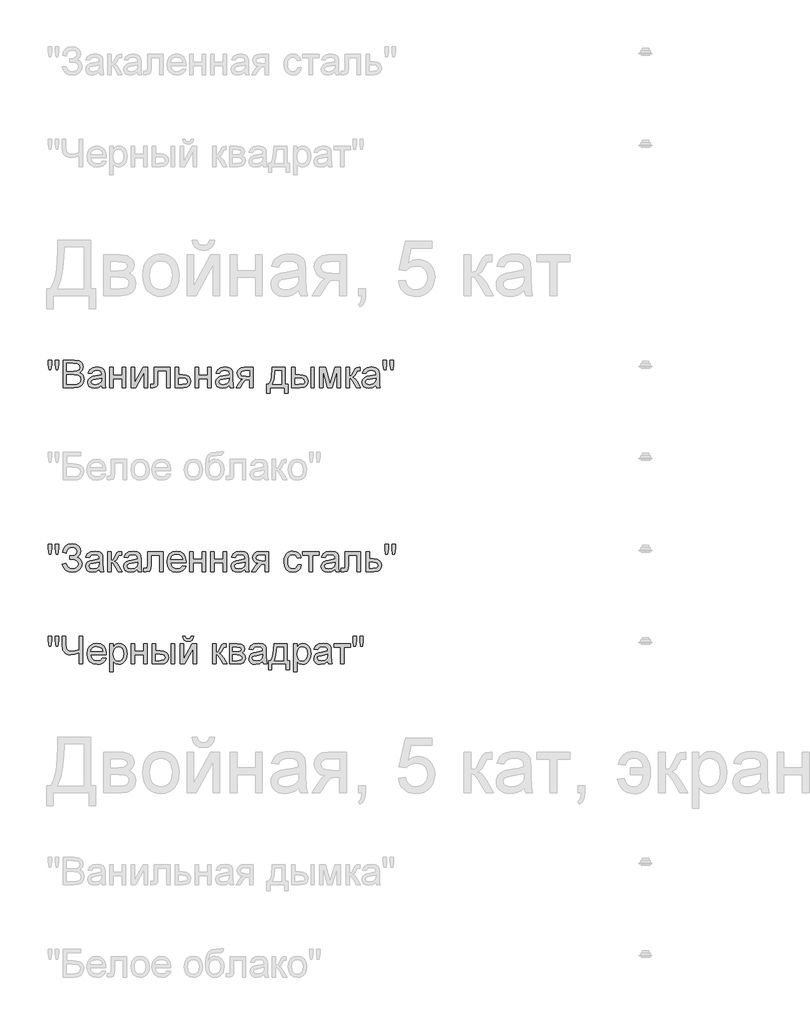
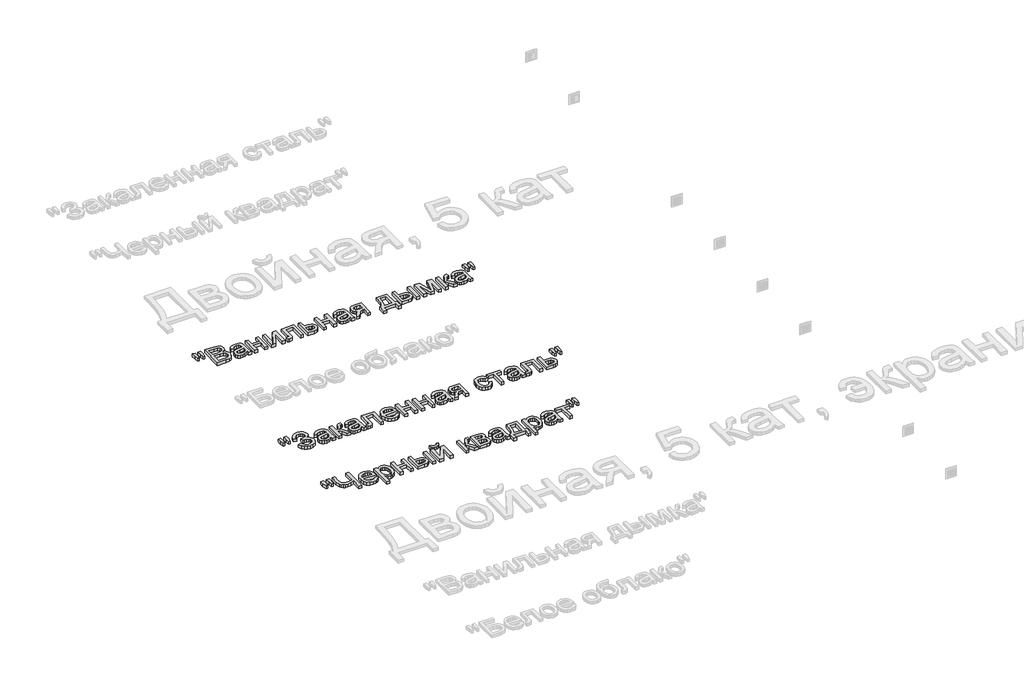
# One storey, part 160 of 168: 3 proxies.
"""IFC4 building model written with IfcOpenShell, lengths in millimetres."""

from ifc_helpers import new_model, si_unit, origin, origin_with_axes, place, context, project, spatial, polyline, outline, extrude, element, save

model = new_model("IFC4")

# Units and contexts
model_context = context("Model", 3, world=origin())
ifc_project = project(units=[si_unit("LENGTHUNIT", "METRE", prefix="MILLI")], contexts=[model_context])

# Site, building, storey
site = spatial("IfcSite", under=ifc_project)
building = spatial("IfcBuilding", under=site)
storey = spatial("IfcBuildingStorey", under=building, Name="Этаж 01", Elevation=0.0)

# Proxies
placement = place(None, origin())
element("IfcBuildingElementProxy", 1, Name="150", ObjectType="150", at=placement, inside=storey, context=model_context, shape_type="SweptSolid", body=[
    extrude(outline(polyline([(77280.1485789, -9151.873446), (77275.550054, -9122.7739802), (77275.550054, -9097.7212163), (77294.3856121, -9097.7212163), (77294.3856121, -9122.7739802), (77290.2653338, -9151.873446), (77280.1485789, -9151.873446)])), origin_with_axes(), (0.0, 0.0, 1.0), 20.0),
    extrude(outline(polyline([(77317.7093306, -9151.873446), (77313.2211703, -9122.7739802), (77313.2211703, -9097.7212163), (77332.0567284, -9097.7212163), (77332.0567284, -9122.7739802), (77327.6421445, -9151.873446), (77317.7093306, -9151.873446)])), origin_with_axes(), (0.0, 0.0, 1.0), 20.0),
    extrude(outline(polyline([(77357.9556209, -9248.4056816), (77357.9556209, -9097.7212163), (77415.4555767, -9097.7212163), (77443.6169435, -9102.1541944), (77453.0807078, -9107.7781904), (77460.2452096, -9115.7842223), (77466.2600803, -9135.0612389), (77461.2017028, -9152.6643923), (77445.9162059, -9166.0001146), (77456.5893823, -9171.5735269), (77464.4758526, -9180.0532069), (77469.3456905, -9190.8781346), (77470.9689698, -9203.48729), (77466.5359918, -9223.7391938), (77455.5547142, -9238.160168), (77439.1655713, -9245.8121135), (77415.0141183, -9248.4056816), (77357.9556209, -9248.4056816)]), holes=[polyline([(77376.791179, -9158.9367803), (77411.1881456, -9158.9367803), (77431.2745025, -9157.3180996), (77443.3594261, -9150.3467358), (77447.4245221, -9138.0778712), (77443.6353376, -9125.7906126), (77432.7828187, -9118.5249432), (77408.5761834, -9116.5567745), (77376.791179, -9116.5567745), (77376.791179, -9158.9367803)]), polyline([(77376.791179, -9229.5701234), (77415.4187885, -9229.5701234), (77429.3983043, -9228.8343594), (77441.2257105, -9224.7324752), (77449.061597, -9216.3631598), (77452.1334117, -9203.671231), (77448.5281681, -9189.0295275), (77436.8479148, -9180.2923302), (77413.5793786, -9177.7723385), (77376.791179, -9177.7723385), (77376.791179, -9229.5701234)])]), origin_with_axes(), (0.0, 0.0, 1.0), 20.0),
    extrude(outline(polyline([(77565.1467606, -9234.279013), (77546.8814195, -9247.0445182), (77526.7030921, -9250.7601263), (77510.9623412, -9248.5252432), (77499.3510657, -9241.8205939), (77492.1911624, -9231.6394596), (77489.804528, -9218.975122), (77493.4097715, -9204.0759012), (77502.8827329, -9193.2601705), (77516.0713024, -9187.079753), (77532.3684748, -9184.2470616), (77565.036396, -9177.7723385), (77565.1467606, -9173.5784838), (77563.8499765, -9165.1723802), (77559.9596244, -9159.6725443), (77551.2592153, -9155.5890542), (77539.1375035, -9154.2278908), (77520.0812162, -9157.8515285), (77510.9945309, -9170.7090042), (77492.1589727, -9168.3545594), (77500.3075589, -9149.9604597), (77516.7150959, -9139.1815172), (77541.5655247, -9135.3923327), (77564.3926025, -9138.7400588), (77577.2868664, -9147.1461624), (77583.0626137, -9159.9300617), (77583.9823187, -9176.4111751), (77583.9823187, -9199.8452582), (77584.9388119, -9232.5683617), (77588.6912083, -9248.4056816), (77569.8556501, -9248.4056816), (77565.1467606, -9234.279013)]), holes=[polyline([(77565.1467606, -9196.6078966), (77534.7597078, -9202.383644), (77518.5545059, -9205.4370645), (77511.2152601, -9210.4034715), (77508.6400861, -9217.6507468), (77514.2502865, -9227.841078), (77530.7130058, -9231.9245682), (77549.7692932, -9227.4180137), (77562.0565518, -9216.5103126), (77565.036396, -9201.9421856), (77565.1467606, -9196.6078966)])]), origin_with_axes(), (0.0, 0.0, 1.0), 20.0),
    extrude(outline(polyline([(77609.8812112, -9137.7467774), (77628.7167693, -9137.7467774), (77628.7167693, -9180.1267833), (77678.1601095, -9180.1267833), (77678.1601095, -9137.7467774), (77696.9956676, -9137.7467774), (77696.9956676, -9248.4056816), (77678.1601095, -9248.4056816), (77678.1601095, -9198.9623414), (77628.7167693, -9198.9623414), (77628.7167693, -9248.4056816), (77609.8812112, -9248.4056816), (77609.8812112, -9137.7467774)])), origin_with_axes(), (0.0, 0.0, 1.0), 20.0),
    extrude(outline(polyline([(77725.2490049, -9137.7467774), (77744.084563, -9137.7467774), (77744.084563, -9222.1389071), (77790.364118, -9137.7467774), (77814.7179061, -9137.7467774), (77814.7179061, -9248.4056816), (77795.8823479, -9248.4056816), (77795.8823479, -9164.5285867), (77749.8970985, -9248.4056816), (77725.2490049, -9248.4056816), (77725.2490049, -9137.7467774)])), origin_with_axes(), (0.0, 0.0, 1.0), 20.0),
    extrude(outline(polyline([(77852.3890224, -9137.7467774), (77937.1490341, -9137.7467774), (77937.1490341, -9248.295317), (77918.3134759, -9248.295317), (77918.3134759, -9156.5823356), (77871.2245806, -9156.5823356), (77871.2245806, -9209.3734019), (77869.9553877, -9233.72719), (77862.9840239, -9244.0094917), (77846.5029105, -9248.4056816), (77831.1990195, -9247.4491884), (77831.1990195, -9229.5701234), (77839.6235172, -9229.5701234), (77848.1399854, -9228.4112951), (77851.5428938, -9224.7324752), (77852.3890224, -9208.3065441), (77852.3890224, -9137.7467774)])), origin_with_axes(), (0.0, 0.0, 1.0), 20.0),
    extrude(outline(polyline([(77965.4023713, -9137.7467774), (77984.2379295, -9137.7467774), (77984.2379295, -9177.7723385), (78005.9429672, -9177.7723385), (78024.7601312, -9180.1313818), (78038.6844648, -9187.2085117), (78047.2929034, -9198.433511), (78050.162383, -9213.2361628), (78047.7205663, -9226.7144394), (78040.395116, -9238.0865916), (78027.6985887, -9245.8259091), (78009.1435405, -9248.4056816), (77965.4023713, -9248.4056816), (77965.4023713, -9137.7467774)]), holes=[polyline([(77984.2379295, -9229.5701234), (78001.8226888, -9229.5701234), (78024.539402, -9225.615392), (78029.6299692, -9220.552416), (78031.3268249, -9213.272951), (78026.3052356, -9201.6846682), (78018.2348244, -9197.8770895), (78004.066769, -9196.6078966), (77984.2379295, -9196.6078966), (77984.2379295, -9229.5701234)])]), origin_with_axes(), (0.0, 0.0, 1.0), 20.0),
    extrude(outline(polyline([(78073.7068307, -9137.7467774), (78092.5423889, -9137.7467774), (78092.5423889, -9180.1267833), (78141.985729, -9180.1267833), (78141.985729, -9137.7467774), (78160.8212872, -9137.7467774), (78160.8212872, -9248.4056816), (78141.985729, -9248.4056816), (78141.985729, -9198.9623414), (78092.5423889, -9198.9623414), (78092.5423889, -9248.4056816), (78073.7068307, -9248.4056816), (78073.7068307, -9137.7467774)])), origin_with_axes(), (0.0, 0.0, 1.0), 20.0),
    extrude(outline(polyline([(78259.7079675, -9234.279013), (78241.4426264, -9247.0445182), (78221.264299, -9250.7601263), (78205.5235481, -9248.5252432), (78193.9122726, -9241.8205939), (78186.7523693, -9231.6394596), (78184.3657349, -9218.975122), (78187.9709784, -9204.0759012), (78197.4439398, -9193.2601705), (78210.6325093, -9187.079753), (78226.9296817, -9184.2470616), (78259.5976029, -9177.7723385), (78259.7079675, -9173.5784838), (78258.4111834, -9165.1723802), (78254.5208313, -9159.6725443), (78245.8204221, -9155.5890542), (78233.6987104, -9154.2278908), (78214.6424231, -9157.8515285), (78205.5557378, -9170.7090042), (78186.7201796, -9168.3545594), (78194.8687658, -9149.9604597), (78211.2763028, -9139.1815172), (78236.1267316, -9135.3923327), (78258.9538094, -9138.7400588), (78271.8480733, -9147.1461624), (78277.6238206, -9159.9300617), (78278.5435256, -9176.4111751), (78278.5435256, -9199.8452582), (78279.5000188, -9232.5683617), (78283.2524152, -9248.4056816), (78264.416857, -9248.4056816), (78259.7079675, -9234.279013)]), holes=[polyline([(78259.7079675, -9196.6078966), (78229.3209147, -9202.383644), (78213.1157128, -9205.4370645), (78205.776467, -9210.4034715), (78203.201293, -9217.6507468), (78208.8114934, -9227.841078), (78225.2742127, -9231.9245682), (78244.3305001, -9227.4180137), (78256.6177587, -9216.5103126), (78259.5976029, -9201.9421856), (78259.7079675, -9196.6078966)])]), origin_with_axes(), (0.0, 0.0, 1.0), 20.0),
    extrude(outline(polyline([(78389.2024298, -9137.7467774), (78389.2024298, -9248.4056816), (78370.3668716, -9248.4056816), (78370.3668716, -9206.0256757), (78360.1029639, -9206.0256757), (78346.1234481, -9208.4169087), (78332.9900609, -9224.4933519), (78317.9804755, -9248.4056816), (78296.2018614, -9248.4056816), (78315.1109959, -9218.1657816), (78323.4619172, -9207.3132627), (78331.1506509, -9202.4940086), (78318.2747811, -9198.5484742), (78309.224884, -9191.0528785), (78303.872201, -9181.0832765), (78302.0879733, -9169.7157228), (78304.5251915, -9156.8214589), (78311.8368462, -9146.6127335), (78323.7654199, -9139.9632664), (78340.0533952, -9137.7467774), (78389.2024298, -9137.7467774)]), holes=[polyline([(78370.3668716, -9156.5823356), (78345.5348369, -9156.5823356), (78332.7095509, -9157.672186), (78325.4300859, -9160.9417372), (78320.9235315, -9171.1504626), (78322.583599, -9178.32876), (78327.5638015, -9183.3089625), (78351.0898551, -9187.1901176), (78370.3668716, -9187.1901176), (78370.3668716, -9156.5823356)])]), origin_with_axes(), (0.0, 0.0, 1.0), 20.0),
    extrude(outline(polyline([(78492.7979996, -9137.7467774), (78563.4313427, -9137.7467774), (78563.4313427, -9229.5701234), (78577.5580113, -9229.5701234), (78577.5580113, -9279.0134636), (78558.7224531, -9279.0134636), (78558.7224531, -9248.4056816), (78481.0257758, -9248.4056816), (78481.0257758, -9279.0134636), (78462.1902176, -9279.0134636), (78462.1902176, -9229.5701234), (78473.9624415, -9229.5701234), (78482.5202964, -9214.105284), (78488.5121744, -9193.6464466), (78492.7979996, -9137.7467774)]), holes=[polyline([(78509.279113, -9156.5823356), (78504.864529, -9199.4957703), (78495.1524444, -9229.5701234), (78544.5957845, -9229.5701234), (78544.5957845, -9156.5823356), (78509.279113, -9156.5823356)])]), origin_with_axes(), (0.0, 0.0, 1.0), 20.0),
    extrude(outline(polyline([(78702.3435841, -9137.7467774), (78721.1791422, -9137.7467774), (78721.1791422, -9248.4056816), (78702.3435841, -9248.4056816), (78702.3435841, -9137.7467774)])), origin_with_axes(), (0.0, 0.0, 1.0), 20.0),
    extrude(outline(polyline([(78598.7480142, -9137.7467774), (78617.5835724, -9137.7467774), (78617.5835724, -9177.7723385), (78640.8705027, -9177.7723385), (78660.9982463, -9180.1313818), (78675.9112627, -9187.2085117), (78685.1405023, -9198.433511), (78688.2169154, -9213.2361628), (78685.637143, -9226.7144394), (78677.8978255, -9238.0865916), (78664.4931253, -9245.8259091), (78644.9172046, -9248.4056816), (78598.7480142, -9248.4056816), (78598.7480142, -9137.7467774)]), holes=[polyline([(78617.5835724, -9229.5701234), (78636.9341653, -9229.5701234), (78661.9133528, -9225.615392), (78667.5143562, -9220.552416), (78669.3813573, -9213.272951), (78663.8447333, -9201.6846682), (78654.9649816, -9197.8770895), (78639.3989747, -9196.6078966), (78617.5835724, -9196.6078966), (78617.5835724, -9229.5701234)])]), origin_with_axes(), (0.0, 0.0, 1.0), 20.0),
    extrude(outline(polyline([(78749.4324794, -9137.7467774), (78781.8428832, -9137.7467774), (78806.8220707, -9226.3327619), (78833.7510327, -9137.7467774), (78864.8002731, -9137.7467774), (78864.8002731, -9248.4056816), (78845.964715, -9248.4056816), (78845.964715, -9159.3046623), (78818.8886001, -9248.4056816), (78794.1669301, -9248.4056816), (78768.2680376, -9155.0372312), (78768.2680376, -9248.4056816), (78749.4324794, -9248.4056816), (78749.4324794, -9137.7467774)])), origin_with_axes(), (0.0, 0.0, 1.0), 20.0),
    extrude(outline(polyline([(78893.0536104, -9137.7467774), (78911.8891685, -9137.7467774), (78911.8891685, -9184.8356728), (78924.5075209, -9181.4511584), (78934.845005, -9161.7326835), (78943.4350496, -9144.7181412), (78951.0134187, -9139.1815172), (78964.7905994, -9137.7467774), (78968.395843, -9137.7467774), (78968.395843, -9156.6927002), (78963.3190714, -9156.5823356), (78954.1220216, -9158.5688983), (78947.6472984, -9170.9665216), (78940.0505352, -9184.3758203), (78929.4003515, -9190.9425139), (78941.2829399, -9198.2725627), (78952.9447992, -9213.7144094), (78973.1047325, -9248.4056816), (78951.6940004, -9248.4056816), (78931.9387373, -9214.4501734), (78922.0059234, -9200.0843815), (78911.8891685, -9196.6078966), (78911.8891685, -9248.4056816), (78893.0536104, -9248.4056816), (78893.0536104, -9137.7467774)])), origin_with_axes(), (0.0, 0.0, 1.0), 20.0),
    extrude(outline(polyline([(79055.5102994, -9234.279013), (79037.2449584, -9247.0445182), (79017.0666309, -9250.7601263), (79001.3258801, -9248.5252432), (78989.7146046, -9241.8205939), (78982.5547013, -9231.6394596), (78980.1680668, -9218.975122), (78983.7733104, -9204.0759012), (78993.2462717, -9193.2601705), (79006.4348413, -9187.079753), (79022.7320137, -9184.2470616), (79055.3999348, -9177.7723385), (79055.5102994, -9173.5784838), (79054.2135154, -9165.1723802), (79050.3231633, -9159.6725443), (79041.6227541, -9155.5890542), (79029.5010424, -9154.2278908), (79010.444755, -9157.8515285), (79001.3580697, -9170.7090042), (78982.5225116, -9168.3545594), (78990.6710978, -9149.9604597), (79007.0786348, -9139.1815172), (79031.9290635, -9135.3923327), (79054.7561413, -9138.7400588), (79067.6504053, -9147.1461624), (79073.4261526, -9159.9300617), (79074.3458576, -9176.4111751), (79074.3458576, -9199.8452582), (79075.3023508, -9232.5683617), (79079.0547471, -9248.4056816), (79060.219189, -9248.4056816), (79055.5102994, -9234.279013)]), holes=[polyline([(79055.5102994, -9196.6078966), (79025.1232466, -9202.383644), (79008.9180447, -9205.4370645), (79001.5787989, -9210.4034715), (78999.003625, -9217.6507468), (79004.6138254, -9227.841078), (79021.0765447, -9231.9245682), (79040.132832, -9227.4180137), (79052.4200907, -9216.5103126), (79055.3999348, -9201.9421856), (79055.5102994, -9196.6078966)])]), origin_with_axes(), (0.0, 0.0, 1.0), 20.0),
    extrude(outline(polyline([(79100.1343854, -9151.873446), (79095.5358605, -9122.7739802), (79095.5358605, -9097.7212163), (79114.3714187, -9097.7212163), (79114.3714187, -9122.7739802), (79110.2511403, -9151.873446), (79100.1343854, -9151.873446)])), origin_with_axes(), (0.0, 0.0, 1.0), 20.0),
    extrude(outline(polyline([(79137.6951372, -9151.873446), (79133.2069768, -9122.7739802), (79133.2069768, -9097.7212163), (79152.042535, -9097.7212163), (79152.042535, -9122.7739802), (79147.627951, -9151.873446), (79137.6951372, -9151.873446)])), origin_with_axes(), (0.0, 0.0, 1.0), 20.0),
])
element("IfcBuildingElementProxy", 2, Name="150", ObjectType="150", at=placement, inside=storey, context=model_context, shape_type="SweptSolid", body=[
    extrude(outline(polyline([(77280.1485789, -10151.873446), (77275.550054, -10122.7739802), (77275.550054, -10097.7212163), (77294.3856121, -10097.7212163), (77294.3856121, -10122.7739802), (77290.2653338, -10151.873446), (77280.1485789, -10151.873446)])), origin_with_axes(), (0.0, 0.0, 1.0), 20.0),
    extrude(outline(polyline([(77317.7093306, -10151.873446), (77313.2211703, -10122.7739802), (77313.2211703, -10097.7212163), (77332.0567284, -10097.7212163), (77332.0567284, -10122.7739802), (77327.6421445, -10151.873446), (77317.7093306, -10151.873446)])), origin_with_axes(), (0.0, 0.0, 1.0), 20.0),
    extrude(outline(polyline([(77350.8922866, -10206.0256757), (77369.7278447, -10201.3167862), (77381.2977335, -10221.7158428), (77392.2284273, -10229.3723868), (77406.2217387, -10231.9245682), (77420.398991, -10230.0069833), (77431.2193202, -10224.2542286), (77438.0757209, -10215.7883442), (77440.3611878, -10205.7313701), (77437.8641888, -10195.1961495), (77430.3731916, -10187.0613589), (77418.5779752, -10181.8604272), (77403.1683181, -10180.1267833), (77393.2722924, -10180.1267833), (77393.2722924, -10161.2912251), (77414.591054, -10159.7645148), (77427.6324708, -10151.9654165), (77433.2978535, -10137.7099892), (77431.4124583, -10128.8394346), (77425.7562726, -10121.2104817), (77416.8811195, -10115.9543677), (77405.3388219, -10114.2023297), (77386.1169876, -10119.591801), (77375.117316, -10133.8840165), (77372.0822895, -10147.1645565), (77353.2467313, -10142.455667), (77359.0983543, -10121.8542752), (77369.7002536, -10107.1389954), (77385.0524291, -10098.3098275), (77405.1548809, -10095.3667716), (77424.5468605, -10098.4247907), (77439.4598769, -10107.5988479), (77448.965028, -10120.8655924), (77452.1334117, -10136.201673), (77447.2037929, -10154.8440931), (77432.4149367, -10168.7592296), (77442.8903765, -10173.5830823), (77451.5080123, -10181.7270699), (77457.2745625, -10192.4922168), (77459.196746, -10205.1795471), (77455.508729, -10223.0172254), (77444.444678, -10237.6819214), (77427.2921799, -10247.4905751), (77405.3388219, -10250.7601263), (77386.2365493, -10247.9642232), (77370.7947025, -10239.5765137), (77359.0132816, -10225.5969979), (77350.8922866, -10206.0256757)])), origin_with_axes(), (0.0, 0.0, 1.0), 20.0),
    extrude(outline(polyline([(77553.3745367, -10234.279013), (77535.1091957, -10247.0445182), (77514.9308682, -10250.7601263), (77499.1901174, -10248.5252432), (77487.5788419, -10241.8205939), (77480.4189386, -10231.6394596), (77478.0323041, -10218.975122), (77481.6375477, -10204.0759012), (77491.110509, -10193.2601705), (77504.2990786, -10187.079753), (77520.596251, -10184.2470616), (77553.2641721, -10177.7723385), (77553.3745367, -10173.5784838), (77552.0777527, -10165.1723802), (77548.1874006, -10159.6725443), (77539.4869914, -10155.5890542), (77527.3652797, -10154.2278908), (77508.3089923, -10157.8515285), (77499.222307, -10170.7090042), (77480.3867489, -10168.3545594), (77488.5353351, -10149.9604597), (77504.9428721, -10139.1815172), (77529.7933008, -10135.3923327), (77552.6203786, -10138.7400588), (77565.5146426, -10147.1461624), (77571.2903899, -10159.9300617), (77572.2100949, -10176.4111751), (77572.2100949, -10199.8452582), (77573.1665881, -10232.5683617), (77576.9189844, -10248.4056816), (77558.0834263, -10248.4056816), (77553.3745367, -10234.279013)]), holes=[polyline([(77553.3745367, -10196.6078966), (77522.9874839, -10202.383644), (77506.782282, -10205.4370645), (77499.4430362, -10210.4034715), (77496.8678623, -10217.6507468), (77502.4780627, -10227.841078), (77518.940782, -10231.9245682), (77537.9970693, -10227.4180137), (77550.284328, -10216.5103126), (77553.2641721, -10201.9421856), (77553.3745367, -10196.6078966)])]), origin_with_axes(), (0.0, 0.0, 1.0), 20.0),
    extrude(outline(polyline([(77598.1089873, -10137.7467774), (77616.9445455, -10137.7467774), (77616.9445455, -10184.8356728), (77629.5628979, -10181.4511584), (77639.900382, -10161.7326835), (77648.4904266, -10144.7181412), (77656.0687957, -10139.1815172), (77669.8459764, -10137.7467774), (77673.4512199, -10137.7467774), (77673.4512199, -10156.6927002), (77668.3744484, -10156.5823356), (77659.1773985, -10158.5688983), (77652.7026754, -10170.9665216), (77645.1059122, -10184.3758203), (77634.4557285, -10190.9425139), (77646.3383169, -10198.2725627), (77658.0001762, -10213.7144094), (77678.1601095, -10248.4056816), (77656.7493774, -10248.4056816), (77636.9941142, -10214.4501734), (77627.0613004, -10200.0843815), (77616.9445455, -10196.6078966), (77616.9445455, -10248.4056816), (77598.1089873, -10248.4056816), (77598.1089873, -10137.7467774)])), origin_with_axes(), (0.0, 0.0, 1.0), 20.0),
    extrude(outline(polyline([(77760.5656764, -10234.279013), (77742.3003353, -10247.0445182), (77722.1220079, -10250.7601263), (77706.381257, -10248.5252432), (77694.7699816, -10241.8205939), (77687.6100782, -10231.6394596), (77685.2234438, -10218.975122), (77688.8286873, -10204.0759012), (77698.3016487, -10193.2601705), (77711.4902183, -10187.079753), (77727.7873906, -10184.2470616), (77760.4553118, -10177.7723385), (77760.5656764, -10173.5784838), (77759.2688924, -10165.1723802), (77755.3785403, -10159.6725443), (77746.6781311, -10155.5890542), (77734.5564193, -10154.2278908), (77715.500132, -10157.8515285), (77706.4134467, -10170.7090042), (77687.5778886, -10168.3545594), (77695.7264748, -10149.9604597), (77712.1340117, -10139.1815172), (77736.9844405, -10135.3923327), (77759.8115183, -10138.7400588), (77772.7057822, -10147.1461624), (77778.4815296, -10159.9300617), (77779.4012346, -10176.4111751), (77779.4012346, -10199.8452582), (77780.3577277, -10232.5683617), (77784.1101241, -10248.4056816), (77765.2745659, -10248.4056816), (77760.5656764, -10234.279013)]), holes=[polyline([(77760.5656764, -10196.6078966), (77730.1786236, -10202.383644), (77713.9734217, -10205.4370645), (77706.6341759, -10210.4034715), (77704.0590019, -10217.6507468), (77709.6692024, -10227.841078), (77726.1319217, -10231.9245682), (77745.188209, -10227.4180137), (77757.4754676, -10216.5103126), (77760.4553118, -10201.9421856), (77760.5656764, -10196.6078966)])]), origin_with_axes(), (0.0, 0.0, 1.0), 20.0),
    extrude(outline(polyline([(77814.7179061, -10137.7467774), (77899.4779178, -10137.7467774), (77899.4779178, -10248.295317), (77880.6423596, -10248.295317), (77880.6423596, -10156.5823356), (77833.5534643, -10156.5823356), (77833.5534643, -10209.3734019), (77832.2842714, -10233.72719), (77825.3129076, -10244.0094917), (77808.8317942, -10248.4056816), (77793.5279032, -10247.4491884), (77793.5279032, -10229.5701234), (77801.9524009, -10229.5701234), (77810.4688691, -10228.4112951), (77813.8717775, -10224.7324752), (77814.7179061, -10208.3065441), (77814.7179061, -10137.7467774)])), origin_with_axes(), (0.0, 0.0, 1.0), 20.0),
    extrude(outline(polyline([(78005.2072032, -10215.4434548), (78023.6748794, -10217.7978996), (78017.0208138, -10231.713036), (78006.4028197, -10242.1148995), (77992.0600204, -10248.5988196), (77974.2315392, -10250.7601263), (77952.1310283, -10247.0307226), (77935.1256831, -10235.8425114), (77924.2823613, -10217.9220597), (77920.6679207, -10193.9959345), (77924.3191495, -10169.2650674), (77935.2728359, -10150.7698), (77952.0482549, -10139.2366995), (77973.1646814, -10135.3923327), (77993.6235189, -10139.2275025), (78009.971275, -10150.7330118), (78020.6904367, -10169.191491), (78024.2634906, -10193.8855699), (78024.153126, -10198.9623414), (77939.5034789, -10198.9623414), (77942.763833, -10213.0614189), (77950.3376036, -10223.4264941), (77961.2682974, -10229.8000497), (77974.5994212, -10231.9245682), (77993.0670974, -10227.9882308), (78005.2072032, -10215.4434548)]), holes=[polyline([(77939.5034789, -10180.1267833), (78005.4279324, -10180.1267833), (78002.8803496, -10170.1755753), (77997.8863515, -10163.0570587), (77986.9050739, -10156.4351828), (77973.091105, -10154.2278908), (77960.3945777, -10155.9891259), (77949.8961452, -10161.272831), (77942.5982861, -10169.5087892), (77939.5034789, -10180.1267833)])]), origin_with_axes(), (0.0, 0.0, 1.0), 20.0),
    extrude(outline(polyline([(78043.0990487, -10137.7467774), (78061.9346069, -10137.7467774), (78061.9346069, -10180.1267833), (78111.377947, -10180.1267833), (78111.377947, -10137.7467774), (78130.2135052, -10137.7467774), (78130.2135052, -10248.4056816), (78111.377947, -10248.4056816), (78111.377947, -10198.9623414), (78061.9346069, -10198.9623414), (78061.9346069, -10248.4056816), (78043.0990487, -10248.4056816), (78043.0990487, -10137.7467774)])), origin_with_axes(), (0.0, 0.0, 1.0), 20.0),
    extrude(outline(polyline([(78158.4668424, -10137.7467774), (78177.3024005, -10137.7467774), (78177.3024005, -10180.1267833), (78226.7457407, -10180.1267833), (78226.7457407, -10137.7467774), (78245.5812988, -10137.7467774), (78245.5812988, -10248.4056816), (78226.7457407, -10248.4056816), (78226.7457407, -10198.9623414), (78177.3024005, -10198.9623414), (78177.3024005, -10248.4056816), (78158.4668424, -10248.4056816), (78158.4668424, -10137.7467774)])), origin_with_axes(), (0.0, 0.0, 1.0), 20.0),
    extrude(outline(polyline([(78344.4679792, -10234.279013), (78326.2026381, -10247.0445182), (78306.0243107, -10250.7601263), (78290.2835598, -10248.5252432), (78278.6722843, -10241.8205939), (78271.512381, -10231.6394596), (78269.1257465, -10218.975122), (78272.7309901, -10204.0759012), (78282.2039515, -10193.2601705), (78295.392521, -10187.079753), (78311.6896934, -10184.2470616), (78344.3576146, -10177.7723385), (78344.4679792, -10173.5784838), (78343.1711951, -10165.1723802), (78339.280843, -10159.6725443), (78330.5804338, -10155.5890542), (78318.4587221, -10154.2278908), (78299.4024347, -10157.8515285), (78290.3157495, -10170.7090042), (78271.4801913, -10168.3545594), (78279.6287775, -10149.9604597), (78296.0363145, -10139.1815172), (78320.8867433, -10135.3923327), (78343.7138211, -10138.7400588), (78356.608085, -10147.1461624), (78362.3838323, -10159.9300617), (78363.3035373, -10176.4111751), (78363.3035373, -10199.8452582), (78364.2600305, -10232.5683617), (78368.0124268, -10248.4056816), (78349.1768687, -10248.4056816), (78344.4679792, -10234.279013)]), holes=[polyline([(78344.4679792, -10196.6078966), (78314.0809264, -10202.383644), (78297.8757245, -10205.4370645), (78290.5364787, -10210.4034715), (78287.9613047, -10217.6507468), (78293.5715051, -10227.841078), (78310.0342244, -10231.9245682), (78329.0905118, -10227.4180137), (78341.3777704, -10216.5103126), (78344.3576146, -10201.9421856), (78344.4679792, -10196.6078966)])]), origin_with_axes(), (0.0, 0.0, 1.0), 20.0),
    extrude(outline(polyline([(78473.9624415, -10137.7467774), (78473.9624415, -10248.4056816), (78455.1268833, -10248.4056816), (78455.1268833, -10206.0256757), (78444.8629756, -10206.0256757), (78430.8834598, -10208.4169087), (78417.7500726, -10224.4933519), (78402.7404872, -10248.4056816), (78380.9618731, -10248.4056816), (78399.8710076, -10218.1657816), (78408.2219289, -10207.3132627), (78415.9106626, -10202.4940086), (78403.0347928, -10198.5484742), (78393.9848957, -10191.0528785), (78388.6322127, -10181.0832765), (78386.847985, -10169.7157228), (78389.2852032, -10156.8214589), (78396.5968579, -10146.6127335), (78408.5254316, -10139.9632664), (78424.8134069, -10137.7467774), (78473.9624415, -10137.7467774)]), holes=[polyline([(78455.1268833, -10156.5823356), (78430.2948486, -10156.5823356), (78417.4695626, -10157.672186), (78410.1900976, -10160.9417372), (78405.6835431, -10171.1504626), (78407.3436107, -10178.32876), (78412.3238132, -10183.3089625), (78435.8498668, -10187.1901176), (78455.1268833, -10187.1901176), (78455.1268833, -10156.5823356)])]), origin_with_axes(), (0.0, 0.0, 1.0), 20.0),
    extrude(outline(polyline([(78631.710241, -10208.3801205), (78650.5457991, -10210.7345653), (78645.2942837, -10227.4869916), (78635.4258491, -10240.1467308), (78621.8693976, -10248.1067774), (78605.5538311, -10250.7601263), (78585.518058, -10247.0583138), (78569.8508835, -10235.952876), (78559.7387272, -10217.9312568), (78556.3680084, -10193.4808997), (78557.8073467, -10176.7192763), (78562.1253616, -10162.192536), (78569.391031, -10150.4616989), (78579.6733328, -10142.087785), (78591.974387, -10137.0661957), (78605.2963137, -10135.3923327), (78621.2118085, -10137.6915951), (78633.9359271, -10144.5893825), (78643.0639991, -10155.7178129), (78648.1913544, -10170.7090042), (78629.3557962, -10173.063449), (78620.6185988, -10158.9551744), (78605.4434665, -10154.2278908), (78593.271171, -10156.5547444), (78583.6096701, -10163.5353053), (78577.3050924, -10175.5466524), (78575.2035665, -10192.9658649), (78577.2591072, -10210.6196021), (78583.4257291, -10222.672336), (78592.9124861, -10229.6115101), (78604.9284317, -10231.9245682), (78614.6819031, -10230.4806314), (78622.678738, -10226.1488209), (78628.4958721, -10218.8187721), (78631.710241, -10208.3801205)])), origin_with_axes(), (0.0, 0.0, 1.0), 20.0),
    extrude(outline(polyline([(78657.6091334, -10137.7467774), (78747.0780347, -10137.7467774), (78747.0780347, -10156.5823356), (78711.7613631, -10156.5823356), (78711.7613631, -10248.4056816), (78692.925805, -10248.4056816), (78692.925805, -10156.5823356), (78657.6091334, -10156.5823356), (78657.6091334, -10137.7467774)])), origin_with_axes(), (0.0, 0.0, 1.0), 20.0),
    extrude(outline(polyline([(78834.1924911, -10234.279013), (78815.9271501, -10247.0445182), (78795.7488226, -10250.7601263), (78780.0080718, -10248.5252432), (78768.3967963, -10241.8205939), (78761.236893, -10231.6394596), (78758.8502585, -10218.975122), (78762.4555021, -10204.0759012), (78771.9284634, -10193.2601705), (78785.117033, -10187.079753), (78801.4142054, -10184.2470616), (78834.0821265, -10177.7723385), (78834.1924911, -10173.5784838), (78832.8957071, -10165.1723802), (78829.005355, -10159.6725443), (78820.3049458, -10155.5890542), (78808.1832341, -10154.2278908), (78789.1269467, -10157.8515285), (78780.0402614, -10170.7090042), (78761.2047033, -10168.3545594), (78769.3532895, -10149.9604597), (78785.7608265, -10139.1815172), (78810.6112552, -10135.3923327), (78833.438333, -10138.7400588), (78846.332597, -10147.1461624), (78852.1083443, -10159.9300617), (78853.0280493, -10176.4111751), (78853.0280493, -10199.8452582), (78853.9845425, -10232.5683617), (78857.7369388, -10248.4056816), (78838.9013807, -10248.4056816), (78834.1924911, -10234.279013)]), holes=[polyline([(78834.1924911, -10196.6078966), (78803.8054383, -10202.383644), (78787.6002364, -10205.4370645), (78780.2609906, -10210.4034715), (78777.6858167, -10217.6507468), (78783.2960171, -10227.841078), (78799.7587364, -10231.9245682), (78818.8150237, -10227.4180137), (78831.1022824, -10216.5103126), (78834.0821265, -10201.9421856), (78834.1924911, -10196.6078966)])]), origin_with_axes(), (0.0, 0.0, 1.0), 20.0),
    extrude(outline(polyline([(78888.3447208, -10137.7467774), (78973.1047325, -10137.7467774), (78973.1047325, -10248.295317), (78954.2691744, -10248.295317), (78954.2691744, -10156.5823356), (78907.180279, -10156.5823356), (78907.180279, -10209.3734019), (78905.9110861, -10233.72719), (78898.9397223, -10244.0094917), (78882.4586089, -10248.4056816), (78867.1547179, -10247.4491884), (78867.1547179, -10229.5701234), (78875.5792156, -10229.5701234), (78884.0956838, -10228.4112951), (78887.4985922, -10224.7324752), (78888.3447208, -10208.3065441), (78888.3447208, -10137.7467774)])), origin_with_axes(), (0.0, 0.0, 1.0), 20.0),
    extrude(outline(polyline([(79001.3580697, -10137.7467774), (79020.1936279, -10137.7467774), (79020.1936279, -10177.7723385), (79041.8986656, -10177.7723385), (79060.7158297, -10180.1313818), (79074.6401632, -10187.2085117), (79083.2486019, -10198.433511), (79086.1180814, -10213.2361628), (79083.6762647, -10226.7144394), (79076.3508145, -10238.0865916), (79063.6542871, -10245.8259091), (79045.099239, -10248.4056816), (79001.3580697, -10248.4056816), (79001.3580697, -10137.7467774)]), holes=[polyline([(79020.1936279, -10229.5701234), (79037.7783873, -10229.5701234), (79060.4951005, -10225.615392), (79065.5856676, -10220.552416), (79067.2825233, -10213.272951), (79062.260934, -10201.6846682), (79054.1905228, -10197.8770895), (79040.0224674, -10196.6078966), (79020.1936279, -10196.6078966), (79020.1936279, -10229.5701234)])]), origin_with_axes(), (0.0, 0.0, 1.0), 20.0),
    extrude(outline(polyline([(79109.5521645, -10151.873446), (79104.9536396, -10122.7739802), (79104.9536396, -10097.7212163), (79123.7891977, -10097.7212163), (79123.7891977, -10122.7739802), (79119.6689194, -10151.873446), (79109.5521645, -10151.873446)])), origin_with_axes(), (0.0, 0.0, 1.0), 20.0),
    extrude(outline(polyline([(79147.1129162, -10151.873446), (79142.6247559, -10122.7739802), (79142.6247559, -10097.7212163), (79161.460314, -10097.7212163), (79161.460314, -10122.7739802), (79157.0457301, -10151.873446), (79147.1129162, -10151.873446)])), origin_with_axes(), (0.0, 0.0, 1.0), 20.0),
])
element("IfcBuildingElementProxy", 3, Name="150", ObjectType="150", at=placement, inside=storey, context=model_context, shape_type="SweptSolid", body=[
    extrude(outline(polyline([(77280.1485789, -10651.873446), (77275.550054, -10622.7739802), (77275.550054, -10597.7212163), (77294.3856121, -10597.7212163), (77294.3856121, -10622.7739802), (77290.2653338, -10651.873446), (77280.1485789, -10651.873446)])), origin_with_axes(), (0.0, 0.0, 1.0), 20.0),
    extrude(outline(polyline([(77317.7093306, -10651.873446), (77313.2211703, -10622.7739802), (77313.2211703, -10597.7212163), (77332.0567284, -10597.7212163), (77332.0567284, -10622.7739802), (77327.6421445, -10651.873446), (77317.7093306, -10651.873446)])), origin_with_axes(), (0.0, 0.0, 1.0), 20.0),
    extrude(outline(polyline([(77463.9056355, -10748.4056816), (77445.0700773, -10748.4056816), (77445.0700773, -10688.0730344), (77420.0908899, -10696.2400147), (77398.4226404, -10698.9623414), (77383.7395502, -10697.0999388), (77370.886673, -10691.512731), (77360.926268, -10683.0606422), (77354.9205944, -10672.6035965), (77350.8922866, -10642.6028198), (77350.8922866, -10597.7212163), (77369.7278447, -10597.7212163), (77369.7278447, -10640.064434), (77371.990319, -10660.4313009), (77378.7777418, -10672.3828673), (77388.7381468, -10678.1908043), (77400.5195677, -10680.1267833), (77422.2521966, -10677.7907326), (77445.0700773, -10670.7825806), (77445.0700773, -10597.7212163), (77463.9056355, -10597.7212163), (77463.9056355, -10748.4056816)])), origin_with_axes(), (0.0, 0.0, 1.0), 20.0),
    extrude(outline(polyline([(77571.9893657, -10715.4434548), (77590.4570418, -10717.7978996), (77583.8029763, -10731.713036), (77573.1849822, -10742.1148995), (77558.8421829, -10748.5988196), (77541.0137017, -10750.7601263), (77518.9131908, -10747.0307226), (77501.9078456, -10735.8425114), (77491.0645238, -10717.9220597), (77487.4500832, -10693.9959345), (77491.101312, -10669.2650674), (77502.0549984, -10650.7698), (77518.8304174, -10639.2366995), (77539.9468439, -10635.3923327), (77560.4056814, -10639.2275025), (77576.7534375, -10650.7330118), (77587.4725992, -10669.191491), (77591.045653, -10693.8855699), (77590.9352884, -10698.9623414), (77506.2856413, -10698.9623414), (77509.5459955, -10713.0614189), (77517.1197661, -10723.4264941), (77528.0504599, -10729.8000497), (77541.3815837, -10731.9245682), (77559.8492598, -10727.9882308), (77571.9893657, -10715.4434548)]), holes=[polyline([(77506.2856413, -10680.1267833), (77572.2100949, -10680.1267833), (77569.6625121, -10670.1755753), (77564.668514, -10663.0570587), (77553.6872364, -10656.4351828), (77539.8732675, -10654.2278908), (77527.1767401, -10655.9891259), (77516.6783077, -10661.272831), (77509.3804486, -10669.5087892), (77506.2856413, -10680.1267833)])]), origin_with_axes(), (0.0, 0.0, 1.0), 20.0),
    extrude(outline(polyline([(77609.8812112, -10790.7856874), (77609.8812112, -10637.7467774), (77628.7167693, -10637.7467774), (77628.7167693, -10656.2144536), (77641.739792, -10640.5978629), (77659.3245513, -10635.3923327), (77672.0624654, -10637.2133485), (77683.2000928, -10642.6763962), (77692.268384, -10651.4503817), (77698.7982894, -10663.2042115), (77704.0590019, -10692.2301009), (77702.5736784, -10708.3387338), (77698.1177077, -10722.7459124), (77690.8336442, -10734.7204713), (77680.8640422, -10743.5312451), (77669.2527667, -10748.952906), (77657.043683, -10750.7601263), (77640.6545401, -10745.9224781), (77628.7167693, -10733.6904018), (77628.7167693, -10790.7856874), (77609.8812112, -10790.7856874)]), holes=[polyline([(77628.7167693, -10693.9591463), (77630.7539159, -10710.8449299), (77636.8653555, -10722.6539419), (77645.8830629, -10729.6069116), (77656.6390128, -10731.9245682), (77667.5697066, -10729.5241382), (77676.8173402, -10722.3228481), (77683.1219179, -10710.0815747), (77685.2234438, -10692.5611947), (77683.1725017, -10675.7673816), (77677.0196753, -10663.7928227), (77668.0157635, -10656.6191238), (77657.411565, -10654.2278908), (77646.7659797, -10656.7708751), (77637.4171785, -10664.399828), (77630.8918716, -10676.8756261), (77628.7167693, -10693.9591463)])]), origin_with_axes(), (0.0, 0.0, 1.0), 20.0),
    extrude(outline(polyline([(77725.2490049, -10637.7467774), (77744.084563, -10637.7467774), (77744.084563, -10680.1267833), (77793.5279032, -10680.1267833), (77793.5279032, -10637.7467774), (77812.3634613, -10637.7467774), (77812.3634613, -10748.4056816), (77793.5279032, -10748.4056816), (77793.5279032, -10698.9623414), (77744.084563, -10698.9623414), (77744.084563, -10748.4056816), (77725.2490049, -10748.4056816), (77725.2490049, -10637.7467774)])), origin_with_axes(), (0.0, 0.0, 1.0), 20.0),
    extrude(outline(polyline([(77944.2123684, -10637.7467774), (77963.0479266, -10637.7467774), (77963.0479266, -10748.4056816), (77944.2123684, -10748.4056816), (77944.2123684, -10637.7467774)])), origin_with_axes(), (0.0, 0.0, 1.0), 20.0),
    extrude(outline(polyline([(77840.6167986, -10637.7467774), (77859.4523567, -10637.7467774), (77859.4523567, -10677.7723385), (77882.739287, -10677.7723385), (77902.8670307, -10680.1313818), (77917.780047, -10687.2085117), (77927.0092866, -10698.433511), (77930.0856998, -10713.2361628), (77927.5059273, -10726.7144394), (77919.7666098, -10738.0865916), (77906.3619096, -10745.8259091), (77886.785989, -10748.4056816), (77840.6167986, -10748.4056816), (77840.6167986, -10637.7467774)]), holes=[polyline([(77859.4523567, -10729.5701234), (77878.8029497, -10729.5701234), (77903.7821371, -10725.615392), (77909.3831405, -10720.552416), (77911.2501416, -10713.272951), (77905.7135176, -10701.6846682), (77896.8337659, -10697.8770895), (77881.267759, -10696.6078966), (77859.4523567, -10696.6078966), (77859.4523567, -10729.5701234)])]), origin_with_axes(), (0.0, 0.0, 1.0), 20.0),
    extrude(outline(polyline([(77991.3012638, -10637.7467774), (78010.1368219, -10637.7467774), (78010.1368219, -10722.1389071), (78056.4163769, -10637.7467774), (78080.770165, -10637.7467774), (78080.770165, -10748.4056816), (78061.9346069, -10748.4056816), (78061.9346069, -10664.5285867), (78015.9493575, -10748.4056816), (77991.3012638, -10748.4056816), (77991.3012638, -10637.7467774)])), origin_with_axes(), (0.0, 0.0, 1.0), 20.0),
    extrude(outline(polyline([(78052.5168278, -10597.7212163), (78066.6434964, -10597.7212163), (78063.6038714, -10609.7831473), (78057.5016288, -10618.672096), (78048.6126801, -10624.1489392), (78037.2129368, -10625.9745536), (78024.8429047, -10624.1627347), (78015.2503817, -10618.7272783), (78008.6928851, -10609.8521251), (78005.4279324, -10597.7212163), (78019.554601, -10597.7212163), (78024.8521017, -10608.3346119), (78035.5206796, -10611.847885), (78047.219327, -10608.4449765), (78052.5168278, -10597.7212163)])), origin_with_axes(), (0.0, 0.0, 1.0), 20.0),
    extrude(outline(polyline([(78167.8846215, -10637.7467774), (78186.7201796, -10637.7467774), (78186.7201796, -10684.8356728), (78199.3385321, -10681.4511584), (78209.6760161, -10661.7326835), (78218.2660607, -10644.7181412), (78225.8444298, -10639.1815172), (78239.6216105, -10637.7467774), (78243.2268541, -10637.7467774), (78243.2268541, -10656.6927002), (78238.1500825, -10656.5823356), (78228.9530327, -10658.5688983), (78222.4783096, -10670.9665216), (78214.8815464, -10684.3758203), (78204.2313626, -10690.9425139), (78216.113951, -10698.2725627), (78227.7758103, -10713.7144094), (78247.9357436, -10748.4056816), (78226.5250115, -10748.4056816), (78206.7697484, -10714.4501734), (78196.8369345, -10700.0843815), (78186.7201796, -10696.6078966), (78186.7201796, -10748.4056816), (78167.8846215, -10748.4056816), (78167.8846215, -10637.7467774)])), origin_with_axes(), (0.0, 0.0, 1.0), 20.0),
    extrude(outline(polyline([(78259.7079675, -10637.7467774), (78301.2050565, -10637.7467774), (78323.9585579, -10640.2667691), (78336.7608514, -10649.5006072), (78342.1135344, -10665.5954445), (78338.8761728, -10678.6736494), (78329.1273, -10687.999458), (78341.7824406, -10698.2081833), (78346.8224239, -10715.9584896), (78343.6310476, -10730.3150845), (78336.0434815, -10740.4226423), (78324.0321343, -10746.4099217), (78307.569415, -10748.4056816), (78259.7079675, -10748.4056816), (78259.7079675, -10637.7467774)]), holes=[polyline([(78278.5435256, -10680.1267833), (78297.1583546, -10680.1267833), (78312.5174279, -10679.1702901), (78319.9854324, -10675.3443173), (78323.2779762, -10668.4281358), (78321.8340394, -10662.8087383), (78317.5022289, -10659.1942977), (78297.7469658, -10656.5823356), (78278.5435256, -10656.5823356), (78278.5435256, -10680.1267833)]), polyline([(78278.5435256, -10729.5701234), (78301.6465149, -10729.5701234), (78322.137542, -10726.167215), (78326.377382, -10721.5273033), (78327.9868658, -10714.4133852), (78324.7678983, -10705.345094), (78316.3801888, -10700.0659874), (78299.8071049, -10698.9623414), (78278.5435256, -10698.9623414), (78278.5435256, -10729.5701234)])]), origin_with_axes(), (0.0, 0.0, 1.0), 20.0),
    extrude(outline(polyline([(78441.0002147, -10734.279013), (78422.7348736, -10747.0445182), (78402.5565462, -10750.7601263), (78386.8157953, -10748.5252432), (78375.2045198, -10741.8205939), (78368.0446165, -10731.6394596), (78365.6579821, -10718.975122), (78369.2632256, -10704.0759012), (78378.736187, -10693.2601705), (78391.9247565, -10687.079753), (78408.2219289, -10684.2470616), (78440.8898501, -10677.7723385), (78441.0002147, -10673.5784838), (78439.7034307, -10665.1723802), (78435.8130786, -10659.6725443), (78427.1126694, -10655.5890542), (78414.9909576, -10654.2278908), (78395.9346703, -10657.8515285), (78386.847985, -10670.7090042), (78368.0124268, -10668.3545594), (78376.161013, -10649.9604597), (78392.56855, -10639.1815172), (78417.4189788, -10635.3923327), (78440.2460566, -10638.7400588), (78453.1403205, -10647.1461624), (78458.9160679, -10659.9300617), (78459.8357728, -10676.4111751), (78459.8357728, -10699.8452582), (78460.792266, -10732.5683617), (78464.5446624, -10748.4056816), (78445.7091042, -10748.4056816), (78441.0002147, -10734.279013)]), holes=[polyline([(78441.0002147, -10696.6078966), (78410.6131619, -10702.383644), (78394.40796, -10705.4370645), (78387.0687142, -10710.4034715), (78384.4935402, -10717.6507468), (78390.1037407, -10727.841078), (78406.5664599, -10731.9245682), (78425.6227473, -10727.4180137), (78437.9100059, -10716.5103126), (78440.8898501, -10701.9421856), (78441.0002147, -10696.6078966)])]), origin_with_axes(), (0.0, 0.0, 1.0), 20.0),
    extrude(outline(polyline([(78502.2157787, -10637.7467774), (78572.8491218, -10637.7467774), (78572.8491218, -10729.5701234), (78586.9757904, -10729.5701234), (78586.9757904, -10779.0134636), (78568.1402322, -10779.0134636), (78568.1402322, -10748.4056816), (78490.4435548, -10748.4056816), (78490.4435548, -10779.0134636), (78471.6079967, -10779.0134636), (78471.6079967, -10729.5701234), (78483.3802205, -10729.5701234), (78491.9380754, -10714.105284), (78497.9299534, -10693.6464466), (78502.2157787, -10637.7467774)]), holes=[polyline([(78518.6968921, -10656.5823356), (78514.2823081, -10699.4957703), (78504.5702235, -10729.5701234), (78554.0135636, -10729.5701234), (78554.0135636, -10656.5823356), (78518.6968921, -10656.5823356)])]), origin_with_axes(), (0.0, 0.0, 1.0), 20.0),
    extrude(outline(polyline([(78608.1657933, -10790.7856874), (78608.1657933, -10637.7467774), (78627.0013514, -10637.7467774), (78627.0013514, -10656.2144536), (78640.0243741, -10640.5978629), (78657.6091334, -10635.3923327), (78670.3470475, -10637.2133485), (78681.4846749, -10642.6763962), (78690.5529661, -10651.4503817), (78697.0828715, -10663.2042115), (78702.3435841, -10692.2301009), (78700.8582605, -10708.3387338), (78696.4022898, -10722.7459124), (78689.1182263, -10734.7204713), (78679.1486243, -10743.5312451), (78667.5373488, -10748.952906), (78655.3282651, -10750.7601263), (78638.9391222, -10745.9224781), (78627.0013514, -10733.6904018), (78627.0013514, -10790.7856874), (78608.1657933, -10790.7856874)]), holes=[polyline([(78627.0013514, -10693.9591463), (78629.038498, -10710.8449299), (78635.1499376, -10722.6539419), (78644.167645, -10729.6069116), (78654.9235949, -10731.9245682), (78665.8542887, -10729.5241382), (78675.1019223, -10722.3228481), (78681.4065, -10710.0815747), (78683.5080259, -10692.5611947), (78681.4570838, -10675.7673816), (78675.3042574, -10663.7928227), (78666.3003456, -10656.6191238), (78655.6961471, -10654.2278908), (78645.0505618, -10656.7708751), (78635.7017606, -10664.399828), (78629.1764537, -10676.8756261), (78627.0013514, -10693.9591463)])]), origin_with_axes(), (0.0, 0.0, 1.0), 20.0),
    extrude(outline(polyline([(78794.1669301, -10734.279013), (78775.901589, -10747.0445182), (78755.7232616, -10750.7601263), (78739.9825107, -10748.5252432), (78728.3712352, -10741.8205939), (78721.2113319, -10731.6394596), (78718.8246974, -10718.975122), (78722.429941, -10704.0759012), (78731.9029024, -10693.2601705), (78745.0914719, -10687.079753), (78761.3886443, -10684.2470616), (78794.0565655, -10677.7723385), (78794.1669301, -10673.5784838), (78792.870146, -10665.1723802), (78788.9797939, -10659.6725443), (78780.2793847, -10655.5890542), (78768.157673, -10654.2278908), (78749.1013856, -10657.8515285), (78740.0147004, -10670.7090042), (78721.1791422, -10668.3545594), (78729.3277284, -10649.9604597), (78745.7352654, -10639.1815172), (78770.5856942, -10635.3923327), (78793.412772, -10638.7400588), (78806.3070359, -10647.1461624), (78812.0827832, -10659.9300617), (78813.0024882, -10676.4111751), (78813.0024882, -10699.8452582), (78813.9589814, -10732.5683617), (78817.7113777, -10748.4056816), (78798.8758196, -10748.4056816), (78794.1669301, -10734.279013)]), holes=[polyline([(78794.1669301, -10696.6078966), (78763.7798773, -10702.383644), (78747.5746754, -10705.4370645), (78740.2354296, -10710.4034715), (78737.6602556, -10717.6507468), (78743.270456, -10727.841078), (78759.7331753, -10731.9245682), (78778.7894627, -10727.4180137), (78791.0767213, -10716.5103126), (78794.0565655, -10701.9421856), (78794.1669301, -10696.6078966)])]), origin_with_axes(), (0.0, 0.0, 1.0), 20.0),
    extrude(outline(polyline([(78829.4836016, -10637.7467774), (78918.9525028, -10637.7467774), (78918.9525028, -10656.5823356), (78883.6358313, -10656.5823356), (78883.6358313, -10748.4056816), (78864.8002731, -10748.4056816), (78864.8002731, -10656.5823356), (78829.4836016, -10656.5823356), (78829.4836016, -10637.7467774)])), origin_with_axes(), (0.0, 0.0, 1.0), 20.0),
    extrude(outline(polyline([(78935.3232516, -10651.873446), (78930.7247267, -10622.7739802), (78930.7247267, -10597.7212163), (78949.5602848, -10597.7212163), (78949.5602848, -10622.7739802), (78945.4400065, -10651.873446), (78935.3232516, -10651.873446)])), origin_with_axes(), (0.0, 0.0, 1.0), 20.0),
    extrude(outline(polyline([(78972.8840033, -10651.873446), (78968.395843, -10622.7739802), (78968.395843, -10597.7212163), (78987.2314011, -10597.7212163), (78987.2314011, -10622.7739802), (78982.8168172, -10651.873446), (78972.8840033, -10651.873446)])), origin_with_axes(), (0.0, 0.0, 1.0), 20.0),
])

save(model, "model.ifc")
